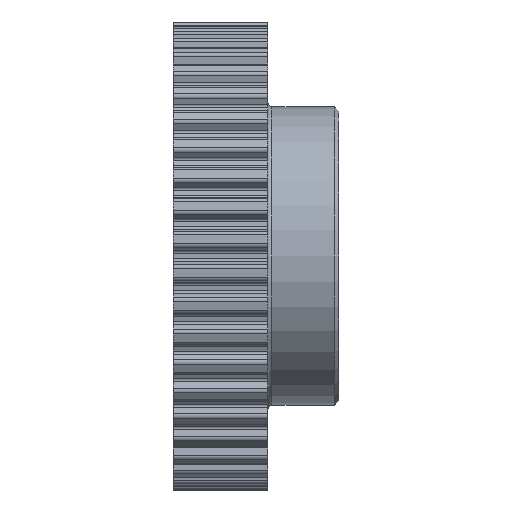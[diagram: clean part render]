
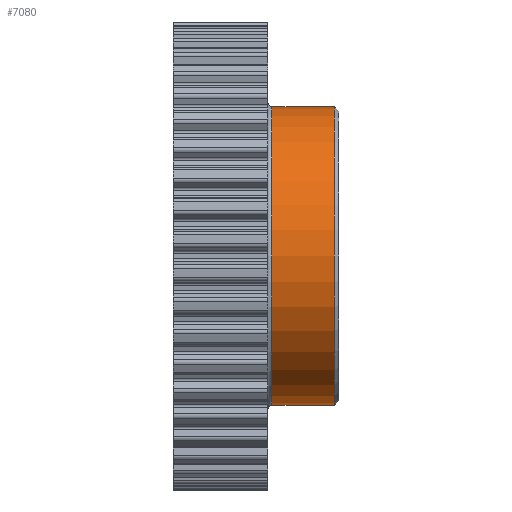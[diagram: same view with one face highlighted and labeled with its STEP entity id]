
A CAD part, front view. The second image highlights one B-rep face of the part: STEP entity #7080.
In plain terms, the highlighted cylindrical face has radius 22.5 mm (diameter 45 mm), a full revolution.
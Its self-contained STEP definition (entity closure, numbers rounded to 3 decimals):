
#515=FACE_OUTER_BOUND('',#878,.T.);
#878=EDGE_LOOP('',(#6489,#6490,#6491,#6492,#6493));
#1501=LINE('',#12302,#2122);
#2122=VECTOR('',#10154,22.5);
#2570=CIRCLE('',#7910,22.5);
#2571=CIRCLE('',#7911,22.5);
#2572=CIRCLE('',#7913,22.5);
#3283=VERTEX_POINT('',#12294);
#3284=VERTEX_POINT('',#12296);
#3285=VERTEX_POINT('',#12300);
#4352=EDGE_CURVE('',#3284,#3283,#2570,.T.);
#4353=EDGE_CURVE('',#3283,#3284,#2571,.T.);
#4354=EDGE_CURVE('',#3285,#3285,#2572,.T.);
#4355=EDGE_CURVE('',#3285,#3284,#1501,.T.);
#6489=ORIENTED_EDGE('',*,*,#4354,.F.);
#6490=ORIENTED_EDGE('',*,*,#4355,.T.);
#6491=ORIENTED_EDGE('',*,*,#4352,.T.);
#6492=ORIENTED_EDGE('',*,*,#4353,.T.);
#6493=ORIENTED_EDGE('',*,*,#4355,.F.);
#6721=CYLINDRICAL_SURFACE('',#7912,22.5);
#7080=ADVANCED_FACE('',(#515),#6721,.T.);
#7910=AXIS2_PLACEMENT_3D('',#12297,#10146,#10147);
#7911=AXIS2_PLACEMENT_3D('',#12298,#10148,#10149);
#7912=AXIS2_PLACEMENT_3D('',#12299,#10150,#10151);
#7913=AXIS2_PLACEMENT_3D('',#12301,#10152,#10153);
#10146=DIRECTION('center_axis',(1.,0.,0.));
#10147=DIRECTION('ref_axis',(0.,0.,-1.));
#10148=DIRECTION('center_axis',(1.,0.,0.));
#10149=DIRECTION('ref_axis',(0.,0.,-1.));
#10150=DIRECTION('center_axis',(1.,0.,0.));
#10151=DIRECTION('ref_axis',(0.,1.,0.));
#10152=DIRECTION('center_axis',(1.,0.,0.));
#10153=DIRECTION('ref_axis',(0.,0.,-1.));
#10154=DIRECTION('',(-1.,0.,0.));
#12294=CARTESIAN_POINT('',(14.9,0.,22.5));
#12296=CARTESIAN_POINT('',(14.9,-22.5,0.));
#12297=CARTESIAN_POINT('Origin',(14.9,0.,0.));
#12298=CARTESIAN_POINT('Origin',(14.9,0.,0.));
#12299=CARTESIAN_POINT('Origin',(19.6,0.,0.));
#12300=CARTESIAN_POINT('',(24.3,-22.5,0.));
#12301=CARTESIAN_POINT('Origin',(24.3,0.,0.));
#12302=CARTESIAN_POINT('',(19.6,-22.5,0.));
